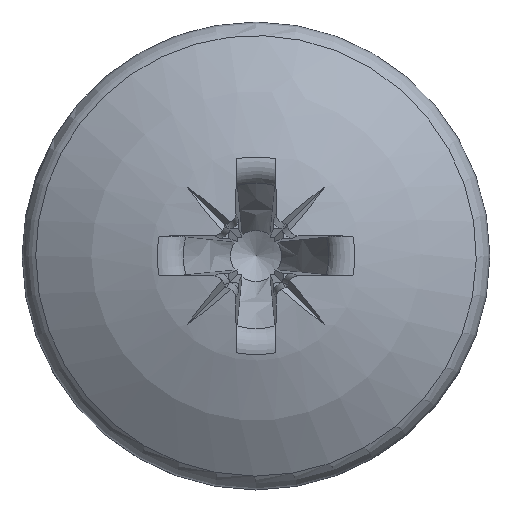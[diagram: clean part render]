
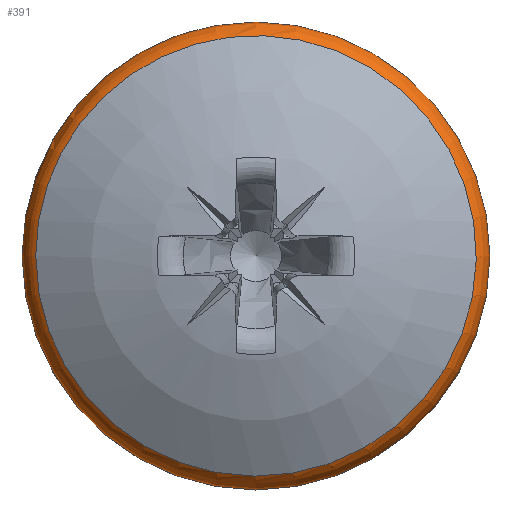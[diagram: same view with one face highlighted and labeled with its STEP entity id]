
A CAD part, top view. The second image highlights one B-rep face of the part: STEP entity #391.
In plain terms, the highlighted toroidal (fillet/blend) face has major radius 5.33 mm and minor radius 0.82 mm.
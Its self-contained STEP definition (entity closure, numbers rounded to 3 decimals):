
#297=TOROIDAL_SURFACE('',#1738,5.33,0.82);
#313=FACE_BOUND('',#599,.T.);
#314=FACE_BOUND('',#600,.T.);
#391=ADVANCED_FACE('',(#313,#314),#297,.T.);
#599=EDGE_LOOP('',(#1015));
#600=EDGE_LOOP('',(#1016));
#638=CIRCLE('',#1623,5.792);
#663=CIRCLE('',#1653,6.15);
#1015=ORIENTED_EDGE('',*,*,#1356,.F.);
#1016=ORIENTED_EDGE('',*,*,#1315,.F.);
#1169=VERTEX_POINT('',#2722);
#1208=VERTEX_POINT('',#2993);
#1315=EDGE_CURVE('',#1169,#1169,#638,.T.);
#1356=EDGE_CURVE('',#1208,#1208,#663,.T.);
#1623=AXIS2_PLACEMENT_3D('',#2721,#1756,#1757);
#1653=AXIS2_PLACEMENT_3D('',#2992,#1817,#1818);
#1738=AXIS2_PLACEMENT_3D('',#3424,#2047,#2048);
#1756=DIRECTION('',(0.,0.,1.));
#1757=DIRECTION('',(-1.,0.,0.));
#1817=DIRECTION('',(0.,0.,-1.));
#1818=DIRECTION('',(-1.,0.,0.));
#2047=DIRECTION('',(0.,0.,-1.));
#2048=DIRECTION('',(-1.,0.,0.));
#2721=CARTESIAN_POINT('',(0.,0.,3.315));
#2722=CARTESIAN_POINT('',(-5.792,0.,3.315));
#2992=CARTESIAN_POINT('',(0.,0.,2.638));
#2993=CARTESIAN_POINT('',(-6.15,0.,2.638));
#3424=CARTESIAN_POINT('',(0.,0.,2.638));
